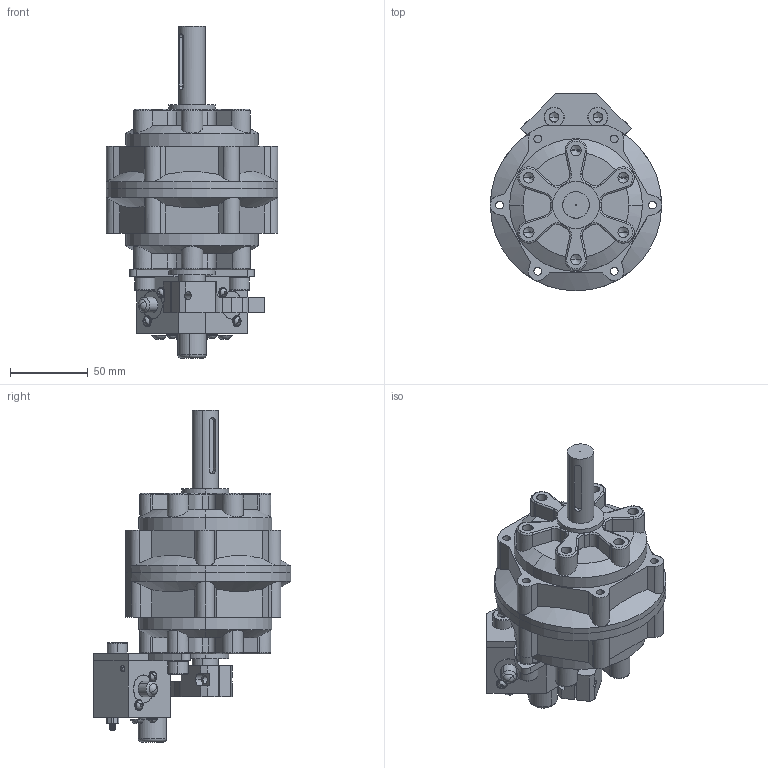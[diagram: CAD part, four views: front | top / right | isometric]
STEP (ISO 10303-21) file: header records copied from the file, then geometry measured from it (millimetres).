
FILE_DESCRIPTION (( 'STEP AP203' ), '1' );
FILE_NAME ('PRN150#-#-#-#-CR.STEP', '2016-01-14T16:43:43', ( '' ), ( '' ), 'SwSTEP 2.0', 'SolidWorks 2014', '' );
FILE_SCHEMA (( 'CONFIG_CONTROL_DESIGN' ));
Length unit declared in the file: millimetre
Products named in the file (18): PRO-CR1-150; 150-PRN50-CR; FC; 150-M8螺絲墊片; 150-六孔螺帽2; PRN150 (3); 150-螺絲; 150-邊底座; PRN150#-#-#-#-CR; 150-活動珠身體; mark-PRN150; 150-螺帽; PRN150 (2); 150-PRO-CR2; 150-M8螺絲; PRN150 (1); 150-圓頂-2; 150-零件4
Assembly tree (32 placements, depth 3):
  PRN150#-#-#-#-CR
    PRN150 (2)
    PRN150 (1)
    PRN150 (3)
    mark-PRN150
    150-PRN50-CR
      PRO-CR1-150
      150-PRO-CR2
      150-零件4
      150-螺絲  x2
      150-M8螺絲  x4
      150-活動珠身體  x2
      150-邊底座  x2
      150-圓頂-2  x3
      150-M8螺絲墊片  x2
      150-六孔螺帽2  x6
      150-螺帽  x2
    FC
Bounding box: 110 x 127 x 213 mm (x, y, z)
Volume: 755968.4 mm3; surface area: 131927.3 mm2
Topology: 37 solids, 37 shells, 968 faces, 2387 edges, 1501 vertices
Faces by surface type: plane 406, cylinder 355, torus 87, cone 74, sphere 26, bspline 20
Entity records: 27161 total; most frequent: CARTESIAN_POINT 7154, DIRECTION 3856, ORIENTED_EDGE 3602, EDGE_CURVE 1801, AXIS2_PLACEMENT_3D 1476, VERTEX_POINT 1154, LINE 904, VECTOR 904
